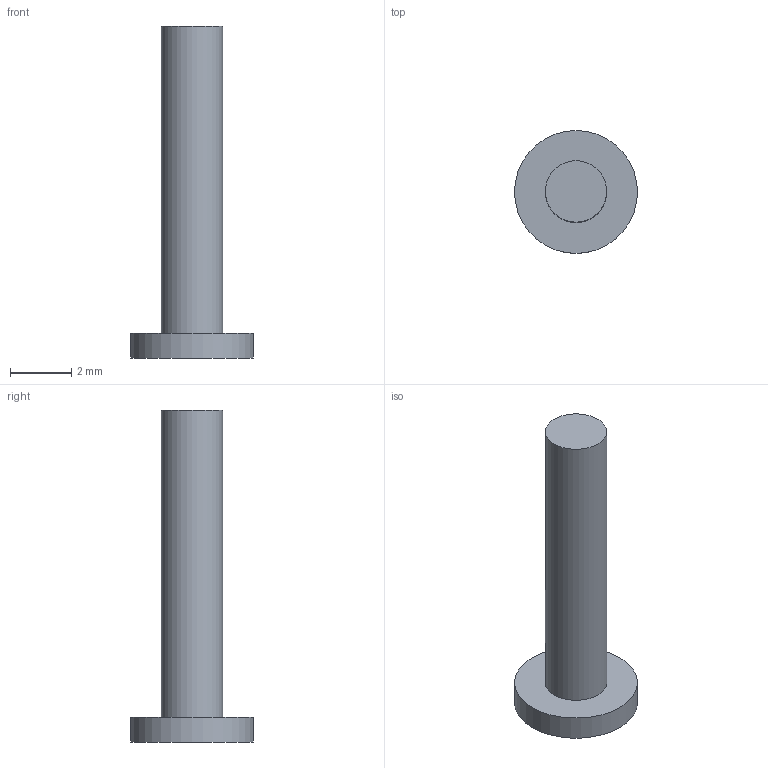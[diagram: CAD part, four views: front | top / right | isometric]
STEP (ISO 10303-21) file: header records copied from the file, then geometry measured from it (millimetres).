
FILE_DESCRIPTION(/* description */ ('STEP AP242 Edition 2','CAx-IF Rec.Pracs.---Representation and Presentation of Product Manufacturing Information (PMI)---4.0---2014-10-13','CAx-IF Rec.Pracs.---3D Tessellated Geometry---0.4---2014-09-14','2;1','CAx-IF Rec.Pracs.---User Defined Attributes---1.5---2016-08-15'),/* implementation_level */ '2;1');
FILE_NAME(/* name */ 'Assembly 1 - Part 1 (60)',/* time_stamp */ '2026-06-04T16:20:01Z',/* author */ (''),/* organization */ (''),/* preprocessor_version */ 'ST-DEVELOPER v20',/* originating_system */ 'ONSHAPE BY PTC INC, 1.215',/* authorisation */ ' ');
FILE_SCHEMA (('AP242_MANAGED_MODEL_BASED_3D_ENGINEERING_MIM_LF { 1 0 10303 442 3 1 4 }'));
Length unit declared in the file: metre
Products named in the file (1): Part 1
Bounding box: 4 x 4 x 10.8 mm (x, y, z)
Volume: 40.2 mm3; surface area: 100.5 mm2
Topology: 1 solids, 1 shells, 7 faces, 9 edges, 6 vertices
Faces by surface type: plane 4, cylinder 3
Full cylindrical faces by diameter (mm): 2 x2, 4 x1
Entity records: 156 total; most frequent: DIRECTION 28, CARTESIAN_POINT 20, AXIS2_PLACEMENT_3D 14, ORIENTED_EDGE 12, EDGE_LOOP 12, FACE_BOUND 12, ADVANCED_FACE 7, EDGE_CURVE 6
